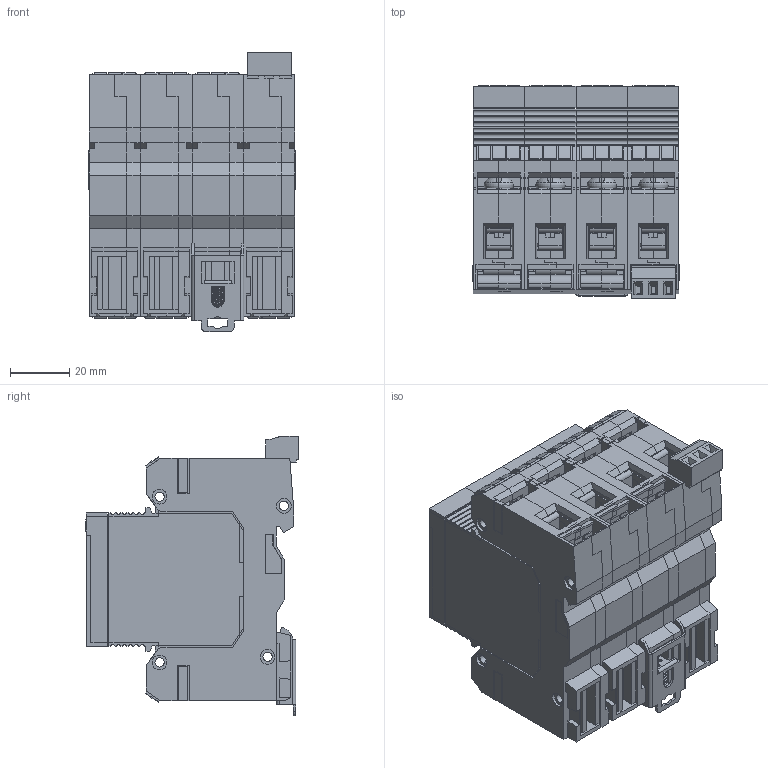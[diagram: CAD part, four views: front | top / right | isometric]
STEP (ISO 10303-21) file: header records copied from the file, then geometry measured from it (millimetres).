
FILE_DESCRIPTION (( 'STEP AP214' ), '1' );
FILE_NAME ('OptiIDn OM 4 ïîëþñà ñ ñèãíàëèçàòîðîì.STEP', '2022-12-05T08:17:37', ( '' ), ( '' ), 'SwSTEP 2.0', 'SolidWorks 2018', '' );
FILE_SCHEMA (( 'AUTOMOTIVE_DESIGN' ));
Length unit declared in the file: millimetre
Products named in the file (27): ﾂ鏆鮏 01; Îñíîâàíèå ìîäóëÿ Ï 50-095 ïóñòîé; Âûâîä 53-027 îáðåçàíûé äëÿ ñàéòà; Êîëîäêà øòåêåðíàÿ 540-2022 21-084; 桎蝂鳪鳿僗闉 47-016 瀀嚦鍣; Ìåòêà 21-086; 署赅 01 矬耱铋; Ñüåìíûé ìîäóëü 01 ïóñòîé; Çàãëóøêà ìîäóëÿ Ï 50-083; Çàùåëêà 11-010; Âñòàâêà êîäèðîâî÷íàÿ 50-082; Îñíîâàíèå ìîäóëÿ Ë 50-094(ïóñòîé ñ èçìåíåíûì ãàáàðèòîì)_„«ï ç¥àâ¥¦ ; Êîäèðîâî÷íàÿ âñòàâêà; Çàãëóøêà ìîäóëÿ Ë 50-084; Ïëàñòèíà 52-040_Š4; OptiIDn OM 4 ïîëþñà ñ ñèãíàëèçàòîðîì; Ïåðåìû÷êà 03-027; Ïðóæèíà çàùåëêè 13-007; 扻豵鵨 01 瀀嚦鍣; Êîëîäêà 03-039 ïîä íîâûé ãàáàðèòû; 鎔艜 03-024
Assembly tree (68 placements, depth 3):
  OptiIDn OM 4 ïîëþñà ñ ñèãíàëèçàòîðîì
    Îñíîâàíèå ìîäóëÿ Ë 50-094(ïóñòîé ñ èçìåíåíûì ãàáàðèòîì)_„«ï ç¥àâ¥¦ 
    Îñíîâàíèå ìîäóëÿ Ï 50-095 ïóñòîé
    Âûâîä 53-027 îáðåçàíûé äëÿ ñàéòà  x8
    Çàãëóøêà ìîäóëÿ Ë 50-084  x4
    Çàãëóøêà ìîäóëÿ Ï 50-083  x4
    Êîëîäêà 03-039 ïîä íîâûé ãàáàðèòû  x8
    Âñòàâêà êîäèðîâî÷íàÿ 50-082  x4
    鎔艜 03-024  x8
    Ïëàñòèíà 52-040_Š4
    Ìåòêà 21-086  x8
    Ñüåìíûé ìîäóëü 01 ïóñòîé  x4
      扻豵鵨 01 瀀嚦鍣
      署赅 01 矬耱铋
      Êîäèðîâî÷íàÿ âñòàâêà
      ﾂ鏆鮏 01
      Ìåòêà 21-086
    桎蝂鳪鳿僗闉 47-016 瀀嚦鍣
    Êîëîäêà øòåêåðíàÿ 540-2022 21-084
    Îñíîâàíèå ìîäóëÿ Ï 50-095 ïóñòîé
    Îñíîâàíèå ìîäóëÿ Ï 50-095 ïóñòîé
    Îñíîâàíèå ìîäóëÿ Ï 50-095 ïóñòîé
    Îñíîâàíèå ìîäóëÿ Ë 50-094(ïóñòîé ñ èçìåíåíûì ãàáàðèòîì)_„«ï ç¥àâ¥¦ 
    Îñíîâàíèå ìîäóëÿ Ë 50-094(ïóñòîé ñ èçìåíåíûì ãàáàðèòîì)_„«ï ç¥àâ¥¦ 
    Îñíîâàíèå ìîäóëÿ Ë 50-094(ïóñòîé ñ èçìåíåíûì ãàáàðèòîì)_„«ï ç¥àâ¥¦ 
    Ïðóæèíà çàùåëêè 13-007
    Çàùåëêà 11-010
    Ïåðåìû÷êà 03-027
Bounding box: 69.8 x 71.88 x 94.6 mm (x, y, z)
Volume: 116919.6 mm3; surface area: 210110.2 mm2
Topology: 82 solids, 82 shells, 8333 faces, 23207 edges, 15126 vertices
Faces by surface type: plane 6789, cylinder 1472, torus 32, bspline 26, cone 14
Entity records: 137616 total; most frequent: CARTESIAN_POINT 26302, ORIENTED_EDGE 23320, DIRECTION 21293, EDGE_CURVE 11660, VECTOR 10211, LINE 10211, VERTEX_POINT 7662, AXIS2_PLACEMENT_3D 5541
